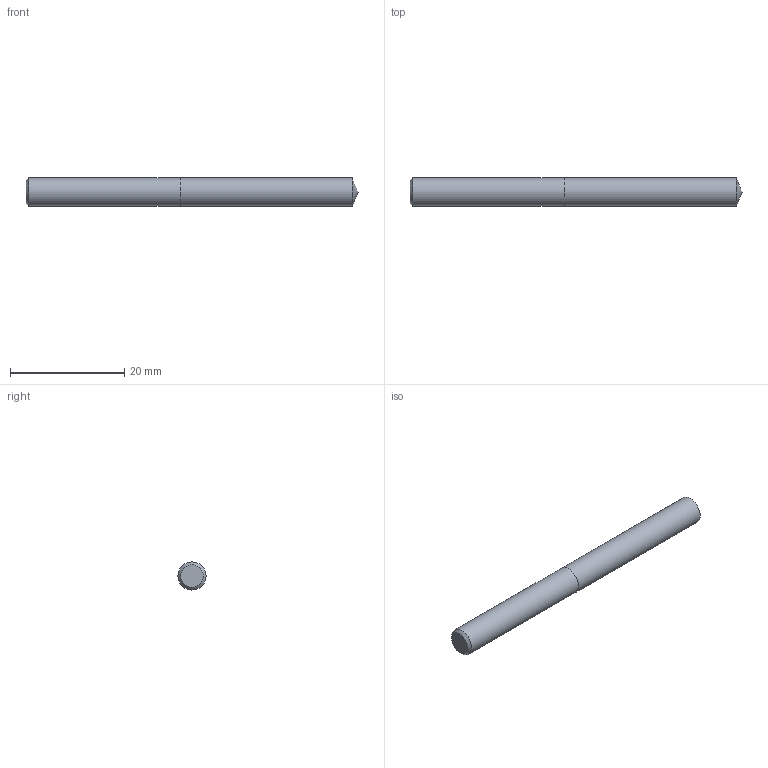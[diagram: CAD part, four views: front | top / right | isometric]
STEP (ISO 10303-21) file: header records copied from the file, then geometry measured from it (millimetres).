
FILE_DESCRIPTION (( 'STEP AP214' ), '1' );
FILE_NAME ('03-2352.STEP', '2022-06-03T06:36:30', ( 'USER' ), ( '' ), 'SwSTEP 2.0', 'SolidWorks 2018', '' );
FILE_SCHEMA (( 'AUTOMOTIVE_DESIGN' ));
Length unit declared in the file: inch
Products named in the file (1): 03-2352
Bounding box: 58.17 x 4.91 x 4.91 mm (x, y, z)
Volume: 1089 mm3; surface area: 955.1 mm2
Topology: 2 solids, 2 shells, 7 faces, 11 edges, 7 vertices
Faces by surface type: plane 3, cylinder 2, cone 2
Full cylindrical faces by diameter (mm): 4.915 x2
Entity records: 214 total; most frequent: DIRECTION 26, CARTESIAN_POINT 18, AXIS2_PLACEMENT_3D 13, EDGE_LOOP 10, ORIENTED_EDGE 10, FACE_OUTER_BOUND 9, UNCERTAINTY_MEASURE_WITH_UNIT 7, DIMENSIONAL_EXPONENTS 7
